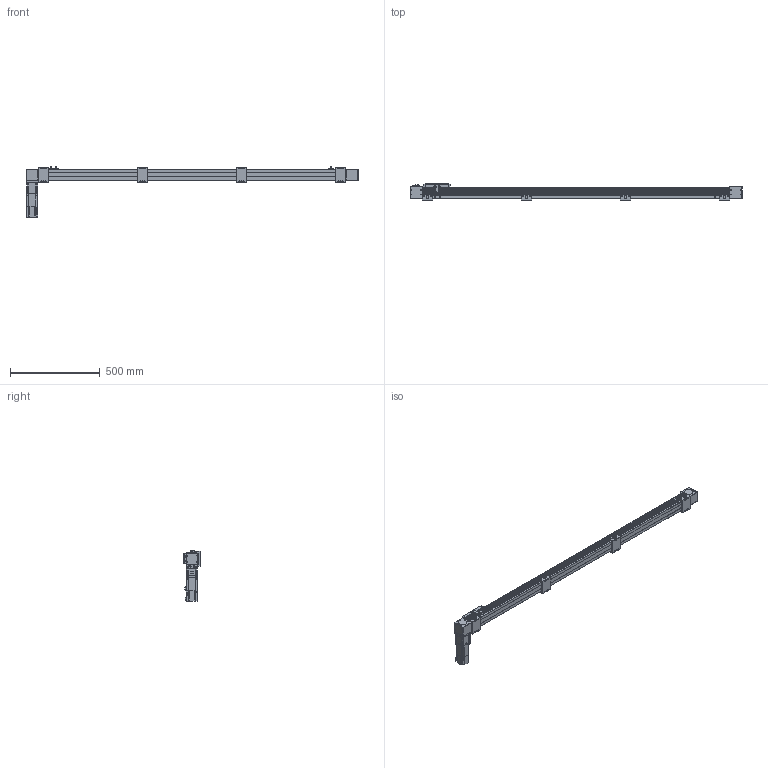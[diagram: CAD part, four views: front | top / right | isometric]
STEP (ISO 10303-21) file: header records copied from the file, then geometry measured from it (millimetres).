
FILE_DESCRIPTION(/* description */ ('STEP AP203'),/* implementation_level */ '2;1');
FILE_NAME(/* name */ 'SK60-P13-S1550-BR-T40-C1-N(0)',/* time_stamp */ '2023-04-06T04:00:09+02:00',/* author */ ('License CC BY-ND 4.0'),/* organization */ ('CADENAS'),/* preprocessor_version */ 'ST-DEVELOPER v19.3',/* originating_system */ 'PARTsolutions',/* authorisation */ ' ');
FILE_SCHEMA (('CONFIG_CONTROL_DESIGN'));
Length unit declared in the file: millimetre
Products named in the file (11): SK60-P13-S1550-BR-T40-C1-N(0); PSC140-sensor; SK60-S450_seat; SK60-S450-BL-C1_slider; SK60_body3; SK60_body6; SK60-BL_body2; T40-p1; SK60_body5; SK60_body4; SK60-S1550-BR-C1_body
Assembly tree (19 placements, depth 2):
  SK60-P13-S1550-BR-T40-C1-N(0)
    PSC140-sensor  x3
    SK60-S450_seat  x4
    SK60-S450-BL-C1_slider
    SK60_body3  x3
    SK60_body6  x2
    SK60-BL_body2  x2
    T40-p1
    SK60_body5
    SK60_body4
    SK60-S1550-BR-C1_body
Bounding box: 1850 x 90 x 279.1 mm (x, y, z)
Volume: 6921034.7 mm3; surface area: 891664.9 mm2
Topology: 19 solids, 23 shells, 922 faces, 2305 edges, 1522 vertices
Faces by surface type: plane 592, cylinder 298, cone 30, torus 2
Full cylindrical faces by diameter (mm): 2.8 x3, 3.3 x4, 4.2 x8, 4.5 x26, 4.6 x3, 4.917 x24, 5 x2, 5.478 x4, 5.5 x27, 6.5 x8, 8 x4, 8.5 x4, 9.988 x4, 10 x16, 13.556 x1, 14 x1, 14.586 x1, 19.692 x1, 38.432 x2, 43 x1, 44 x3, 47 x2, 50 x2
Entity records: 19387 total; most frequent: DIRECTION 3296, CARTESIAN_POINT 3291, ORIENTED_EDGE 3050, EDGE_CURVE 1525, AXIS2_PLACEMENT_3D 1102, LINE 1092, VECTOR 1092, VERTEX_POINT 1077
